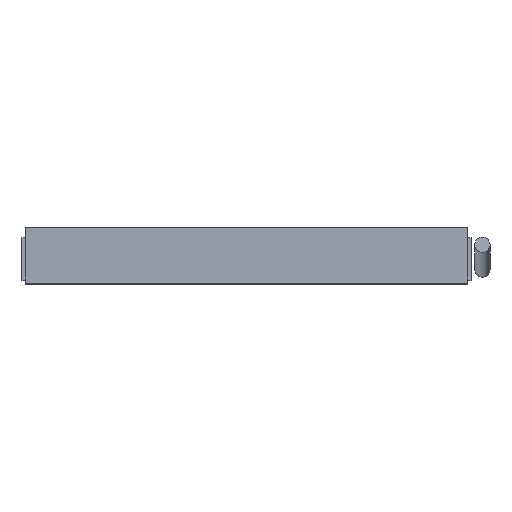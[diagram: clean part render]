
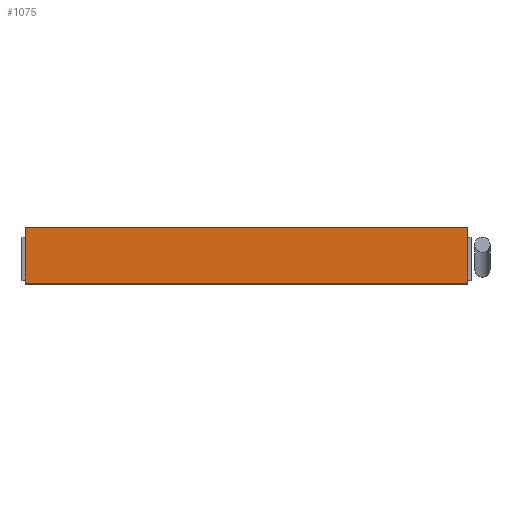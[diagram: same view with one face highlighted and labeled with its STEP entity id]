
A CAD part, top view. The second image highlights one B-rep face of the part: STEP entity #1075.
In plain terms, the highlighted planar face has unit normal (0, 0, 1).
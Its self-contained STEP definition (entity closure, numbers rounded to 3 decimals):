
#747=DIRECTION('',(0.,-1.,0.));
#748=VECTOR('',#747,80.);
#749=CARTESIAN_POINT('',(-320.,40.,500.));
#750=LINE('',#749,#748);
#751=DIRECTION('',(-1.,0.,0.));
#752=VECTOR('',#751,640.);
#753=CARTESIAN_POINT('',(320.,40.,500.));
#754=LINE('',#753,#752);
#755=DIRECTION('',(0.,1.,0.));
#756=VECTOR('',#755,80.);
#757=CARTESIAN_POINT('',(320.,-40.,500.));
#758=LINE('',#757,#756);
#759=DIRECTION('',(1.,0.,0.));
#760=VECTOR('',#759,640.);
#761=CARTESIAN_POINT('',(-320.,-40.,500.));
#762=LINE('',#761,#760);
#899=CARTESIAN_POINT('',(-320.,40.,500.));
#900=CARTESIAN_POINT('',(-320.,-40.,500.));
#901=VERTEX_POINT('',#899);
#902=VERTEX_POINT('',#900);
#903=CARTESIAN_POINT('',(320.,-40.,500.));
#904=VERTEX_POINT('',#903);
#905=CARTESIAN_POINT('',(320.,40.,500.));
#906=VERTEX_POINT('',#905);
#1061=CARTESIAN_POINT('',(0.,0.,500.));
#1062=DIRECTION('',(0.,0.,1.));
#1063=DIRECTION('',(1.,0.,0.));
#1064=AXIS2_PLACEMENT_3D('',#1061,#1062,#1063);
#1065=PLANE('',#1064);
#1066=ORIENTED_EDGE('',*,*,#1051,.F.);
#1068=ORIENTED_EDGE('',*,*,#1067,.F.);
#1070=ORIENTED_EDGE('',*,*,#1069,.F.);
#1072=ORIENTED_EDGE('',*,*,#1071,.F.);
#1073=EDGE_LOOP('',(#1066,#1068,#1070,#1072));
#1074=FACE_OUTER_BOUND('',#1073,.F.);
#1051=EDGE_CURVE('',#901,#902,#750,.T.);
#1067=EDGE_CURVE('',#906,#901,#754,.T.);
#1069=EDGE_CURVE('',#904,#906,#758,.T.);
#1071=EDGE_CURVE('',#902,#904,#762,.T.);
#1075=ADVANCED_FACE('',(#1074),#1065,.T.);
